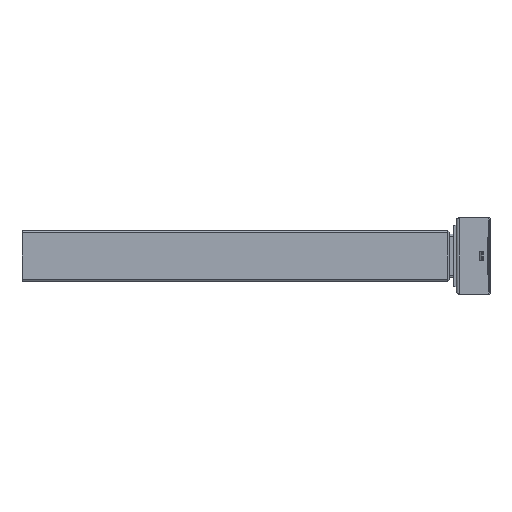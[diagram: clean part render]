
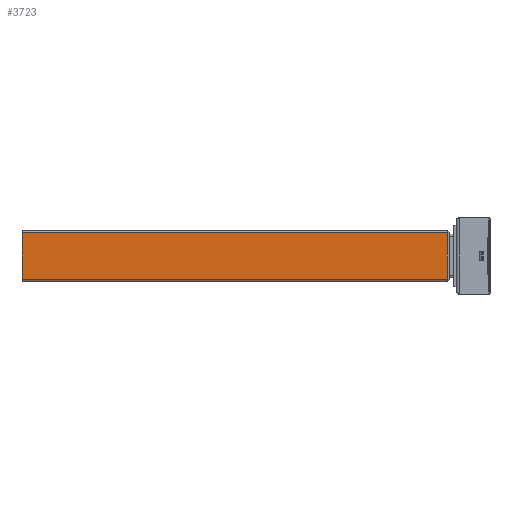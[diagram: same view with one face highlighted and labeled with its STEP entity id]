
A CAD part, left-side view. The second image highlights one B-rep face of the part: STEP entity #3723.
In plain terms, the highlighted planar face has unit normal (-1, 0, 0).
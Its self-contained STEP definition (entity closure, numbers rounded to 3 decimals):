
#355 = AXIS2_PLACEMENT_3D ( 'NONE', #14373, #23634, #8645 ) ;
#1474 = VECTOR ( 'NONE', #30704, 1000. ) ;
#1965 = VECTOR ( 'NONE', #22310, 1000. ) ;
#3419 = CARTESIAN_POINT ( 'NONE',  ( -21.001, -257.972, 603. ) ) ;
#3723 = ADVANCED_FACE ( 'NONE', ( #28751 ), #39205, .F. ) ;
#8418 = EDGE_LOOP ( 'NONE', ( #29286, #12181, #8594, #19577 ) ) ;
#8594 = ORIENTED_EDGE ( 'NONE', *, *, #33967, .T. ) ;
#8645 = DIRECTION ( 'NONE',  ( 0., 0., 1. ) ) ;
#12181 = ORIENTED_EDGE ( 'NONE', *, *, #26260, .T. ) ;
#13539 = CARTESIAN_POINT ( 'NONE',  ( -21.001, -257.972, 603. ) ) ;
#14373 = CARTESIAN_POINT ( 'NONE',  ( -21.001, -257.972, 670. ) ) ;
#15217 = DIRECTION ( 'NONE',  ( 0., 1., 0. ) ) ;
#18011 = LINE ( 'NONE', #18310, #1474 ) ;
#18310 = CARTESIAN_POINT ( 'NONE',  ( -21.001, 328.028, 670. ) ) ;
#19577 = ORIENTED_EDGE ( 'NONE', *, *, #28931, .T. ) ;
#22310 = DIRECTION ( 'NONE',  ( 0., -1., 0. ) ) ;
#23274 = EDGE_CURVE ( 'NONE', #28893, #32781, #38344, .T. ) ;
#23634 = DIRECTION ( 'NONE',  ( 1., 0., 0. ) ) ;
#24453 = VERTEX_POINT ( 'NONE', #39596 ) ;
#26260 = EDGE_CURVE ( 'NONE', #28893, #32345, #39108, .T. ) ;
#28751 = FACE_OUTER_BOUND ( 'NONE', #8418, .T. ) ;
#28893 = VERTEX_POINT ( 'NONE', #31664 ) ;
#28931 = EDGE_CURVE ( 'NONE', #24453, #32781, #38896, .T. ) ;
#29286 = ORIENTED_EDGE ( 'NONE', *, *, #23274, .F. ) ;
#29582 = CARTESIAN_POINT ( 'NONE',  ( -21.001, 328.028, 667. ) ) ;
#30704 = DIRECTION ( 'NONE',  ( 0., 0., -1. ) ) ;
#31664 = CARTESIAN_POINT ( 'NONE',  ( -21.001, -257.972, 667. ) ) ;
#32345 = VERTEX_POINT ( 'NONE', #29582 ) ;
#32781 = VERTEX_POINT ( 'NONE', #13539 ) ;
#33040 = CARTESIAN_POINT ( 'NONE',  ( -21.001, -257.972, 670. ) ) ;
#33760 = VECTOR ( 'NONE', #15217, 1000. ) ;
#33967 = EDGE_CURVE ( 'NONE', #32345, #24453, #18011, .T. ) ;
#38344 = LINE ( 'NONE', #33040, #39323 ) ;
#38896 = LINE ( 'NONE', #3419, #1965 ) ;
#39108 = LINE ( 'NONE', #40045, #33760 ) ;
#39205 = PLANE ( 'NONE',  #355 ) ;
#39323 = VECTOR ( 'NONE', #39428, 1000. ) ;
#39428 = DIRECTION ( 'NONE',  ( 0., 0., -1. ) ) ;
#39596 = CARTESIAN_POINT ( 'NONE',  ( -21.001, 328.028, 603. ) ) ;
#40045 = CARTESIAN_POINT ( 'NONE',  ( -21.001, -257.972, 667. ) ) ;
